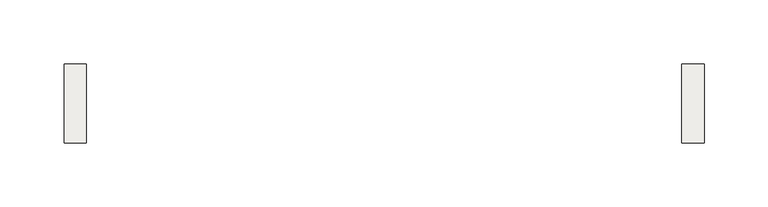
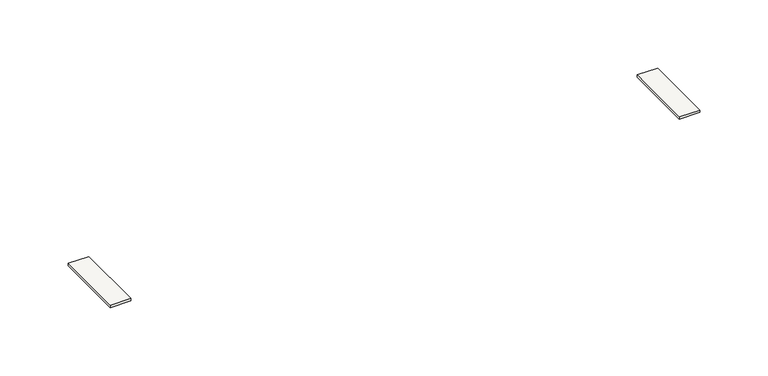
"""IFC4 building model written with IfcOpenShell, lengths in millimetres: covering geometry, Z_DO_NOT_USE_NLRS_PF_52_UN_Extension Set_Easydrain : NLRS_PLF_52_UN_Easy Drain verlengset_Easydrain."""

from ifc_helpers import new_model, si_unit, frame, origin, place, context, project, spatial, polyline, outline, extrude, source, transform, mapped, element, save


def covering_949c216e(model_context):
    return source(origin(), model_context, "Body", "SweptSolid", [
        extrude(outline(polyline([(482.5, 31.0), (482.5, -31.0), (465.0, -31.0), (465.0, 31.0), (482.5, 31.0)])), frame((0.0, 0.0, -2.0), z_axis=(0.0, 0.0, 1.0), x_axis=(1.0, 0.0, 0.0)), (0.0, 0.0, 1.0), 2.0),
        extrude(outline(polyline([(-17.5, -31.0), (-17.5, 31.0), (0.0, 31.0), (0.0, -31.0), (-17.5, -31.0)])), frame((0.0, 0.0, -2.0), z_axis=(0.0, 0.0, 1.0), x_axis=(1.0, 0.0, 0.0)), (0.0, 0.0, 1.0), 2.0),
    ])


if __name__ == "__main__":
    model = new_model("IFC4")
    model_context = context("Model", 3, world=origin())
    ifc_project = project(units=[si_unit("LENGTHUNIT", "METRE", prefix="MILLI")], contexts=[model_context])
    site = spatial("IfcSite", under=ifc_project)
    building = spatial("IfcBuilding", under=site)
    placement = place(None, origin())
    covering_shape = covering_949c216e(model_context)
    element("IfcCovering", 1, ObjectType="Z_DO_NOT_USE_NLRS_PF_52_UN_Extension Set_Easydrain : NLRS_PLF_52_UN_Easy Drain verlengset_Easydrain", at=placement, inside=building, context=model_context, shape_type="MappedRepresentation", body=[
        mapped(covering_shape, transform((0.0, 0.0, 0.0), x_axis=(1.0, 0.0, 0.0), y_axis=(0.0, 1.0, 0.0), z_axis=(0.0, 0.0, 1.0))),
    ])
    save(model, "model.ifc")
